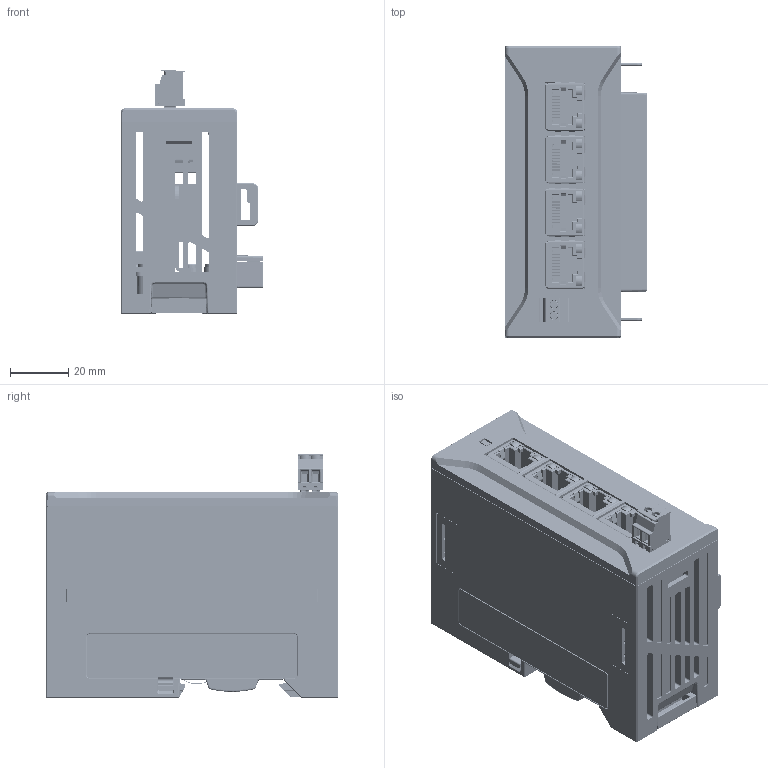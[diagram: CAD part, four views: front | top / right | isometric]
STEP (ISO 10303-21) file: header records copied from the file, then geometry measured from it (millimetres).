
FILE_DESCRIPTION (( 'STEP AP203' ), '1' );
FILE_NAME ('侐厙諳RJ45-20231128.STEP', '2023-11-28T01:48:03', ( '' ), ( '' ), 'SwSTEP 2.0', 'SolidWorks 2016', '' );
FILE_SCHEMA (( 'CONFIG_CONTROL_DESIGN' ));
Length unit declared in the file: millimetre
Products named in the file (38): 03-EXTENSION-MODULE-COVER_ASM; 10025026-X0XX2C-0424_; 03-04-05-RIGHT-COVER; fan-2006; 15EDGKB-3_81-02P-1Y-100A_H_; PCB-JK-ZJ; BACK-COVER1; BACK-COVER3; 06-TOP-COVER; TP-2_14; 04-06-PCB-JK_ASM; 03-04-05-EX-HARDWARE-STACKING_ASM; 04-06-EVA; SW-P-M3-L6; 侐厙諳RJ45-20231128; ZZ; M3XL6-4_2; cross recessed cheese head screws type a gb_GB_CROSS_SCREWS_TYPE135 M1.2X3-N; PCB-JK-ZJ_ASM; 06-PCB-JK; 03-MYLAR-2; RREV0-12133-DP12; C-2327679-1-11-3D_; TP-1_32; SX2-4厙諳-20231020; BACK-COVER2; 04-06-PCB-RJ45_ASM; LOCK-2; 06-PCB; LOCK-1; 03-04-05-BOTTOM-COVER; 03-06-EXTENSION-MODULE-COVER_ASM; 15EDG_ASM; 03-04-05-EXTENSION-MODULE_ASM; 03-MYLAR-1; A-HBC-01B-3SYGD-F3_5; 15EDGRC-THR-3_81-02P-13-00A_H_; EVA
Assembly tree (53 placements, depth 7):
  侐厙諳RJ45-20231128
    03-04-05-EXTENSION-MODULE_ASM
      03-04-05-EX-HARDWARE-STACKING_ASM
        04-06-PCB-RJ45_ASM
          06-PCB
          10025026-X0XX2C-0424_
          C-2327679-1-11-3D_
          04-06-PCB-JK_ASM
            06-PCB-JK
            RREV0-12133-DP12  x4
            A-HBC-01B-3SYGD-F3_5
            15EDG_ASM
              15EDGRC-THR-3_81-02P-13-00A_H_
              15EDGKB-3_81-02P-1Y-100A_H_
      PCB-JK-ZJ_ASM
        PCB-JK-ZJ
        M3XL6-4_2  x4
        EVA
        SW-P-M3-L6  x4
      ZZ
    03-06-EXTENSION-MODULE-COVER_ASM
      03-EXTENSION-MODULE-COVER_ASM
        03-04-05-BOTTOM-COVER
        03-04-05-RIGHT-COVER
        TP-1_32
        BACK-COVER3
        BACK-COVER2
        04-06-EVA
        06-TOP-COVER
      LOCK-1
      LOCK-2
      BACK-COVER1
      TP-2_14
      03-MYLAR-1
      03-MYLAR-2
      SW-P-M3-L6  x6
    SX2-4厙諳-20231020
    fan-2006
    cross recessed cheese head screws type a gb_GB_CROSS_SCREWS_TYPE135 M1.2X3-N  x2
Bounding box: 48.9 x 100 x 83.67 mm (x, y, z)
Volume: 105053.2 mm3; surface area: 147032 mm2
Topology: 45 solids, 45 shells, 14850 faces, 42191 edges, 27258 vertices
Faces by surface type: plane 9928, cylinder 3892, bspline 844, cone 180, torus 6
Entity records: 337780 total; most frequent: CARTESIAN_POINT 95790, ORIENTED_EDGE 54298, DIRECTION 42559, EDGE_CURVE 27149, VERTEX_POINT 17852, VECTOR 17749, LINE 17749, AXIS2_PLACEMENT_3D 12405
